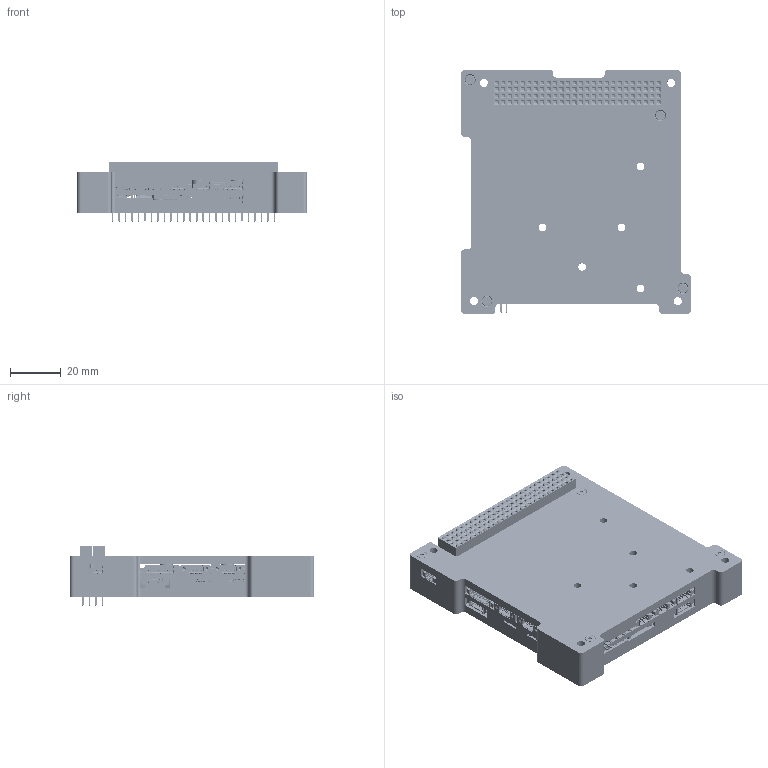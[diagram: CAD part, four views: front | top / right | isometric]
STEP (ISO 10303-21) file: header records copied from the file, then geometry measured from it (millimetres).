
FILE_DESCRIPTION (( 'STEP AP214' ), '1' );
FILE_NAME ('OBC-Cube-Polar-Release_v11.STEP', '2025-06-28T18:42:03', ( '' ), ( '' ), 'SwSTEP 2.0', 'SolidWorks 2024', '' );
FILE_SCHEMA (( 'AUTOMOTIVE_DESIGN' ));
Length unit declared in the file: millimetre
Products named in the file (534): FB5_1.step.SLDASM; C179_1.step.SLDASM; Open CASCADE STEP translator 7.5 6.17.1.2.6.step; CF11_1.step.SLDASM; C209_1.step.SLDASM; C155_1.step.SLDASM; D13.step; J2_1.step.SLDASM; Open CASCADE STEP translator 6.8 2.2.1-7_1.step.SLDPRT; C329_1.step.SLDASM; R281_1.step.SLDASM; C320_1.step.SLDASM; C261_1.step.SLDASM; C247_1.step.SLDASM; D9.step; FRAME-RVC0020A_1.step.SLDASM; C516_1.step.SLDASM; U11_1.step.SLDASM; Open CASCADE STEP translator 7.5 2.1-1_1.step.SLDPRT; Open CASCADE STEP translator 7.5 6.17.1.2.21.step; U7_1.step.SLDASM; C161_1.step.SLDASM; C184_1.step.SLDASM; Open CASCADE STEP translator 6.8 3.2.1_1.step.SLDPRT; powerpak_so_8_1.step.SLDPRT; C262_1.step.SLDASM; C186_1.step.SLDASM; C183_1.step.SLDASM; Open CASCADE STEP translator 7.5 6.17.1.2.8.step; C480_1.step.SLDASM; C273_1.step.SLDASM; J12_1.step.SLDASM; U15_1.step.SLDASM; Y5_1.step.SLDASM; J15_1.step.SLDASM; R117_1.step.SLDASM; R168_1.step.SLDASM; C341_1.step.SLDASM; J20_1.step.SLDASM; C201_1.step.SLDASM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
Assembly tree (1785 placements, depth 6):
  OBC-Cube-Polar-Release_v11
    Polar-Cube-OBC-Min.step
      Board_1.step.SLDASM
        Open CASCADE STEP translator 7.5 6.1.1.step
      J16_1.step.SLDASM
        m22-5330205_1.step.SLDASM
          Open CASCADE STEP translator 7.5 6.2.1.1.step
          Open CASCADE STEP translator 7.5 6.2.1.2.step
          Open CASCADE STEP translator 7.5 6.2.1.3.step
      D1_1.step.SLDASM
        led0603_ORNG_1.step.SLDPRT
      U18_1.step.SLDASM
        SOIC-8_1.step.SLDASM
          SOIC-8_Body_1_1.step.SLDPRT
          SOIC-8_Pins_1_1.step.SLDPRT
      C249_1.step.SLDASM
        cap_0201_1.step.SLDPRT
      C248_1.step.SLDASM
        cap_0201_1.step.SLDPRT
      U46_1.step.SLDASM
        8608009680_1.step.SLDPRT
      U12_1.step.SLDASM
        8608009680_1.step.SLDPRT
      Y9_1.step.SLDASM
        ABM8AIG-26.000MHZ-12-2Z-T3_1.step.SLDPRT
      Y8_1.step.SLDASM
        ECS-.327-12.5-34B-C-TR_1.step.SLDPRT
      Y7_1.step.SLDASM
        AK3LPHEF1-100.0000T_1.step.SLDPRT
      Y6_1.step.SLDASM
        ASEMB-125.000MHZ-XY-T_1.step.SLDPRT
      Y5_1.step.SLDASM
        ASEMB-125.000MHZ-XY-T_1.step.SLDPRT
      U45_1.step.SLDASM
        7344568992_1.step.SLDASM
          Extruded_1.step.SLDPRT
      U44_1.step.SLDASM
        9101751408_1.step.SLDPRT
      U43_1.step.SLDASM
        7090566192_1.step.SLDASM
          Body_1.step.SLDASM
            Open CASCADE STEP translator 6.8 3.2.1_1.step.SLDPRT
          Pin_Shape_1.step.SLDASM  x32
            Open CASCADE STEP translator 6.8 3.4.1_1.step.SLDPRT
          Open CASCADE STEP translator 6.8 3.1_1.step.SLDPRT
          Thermal_Shape_1.step.SLDPRT
      U42_1.step.SLDASM
        RVC0020A_1.step.SLDASM
          FRAME-RVC0020A_1.step.SLDASM
            Open CASCADE STEP translator 7.5 6.17.1.2.1.step
            Open CASCADE STEP translator 7.5 6.17.1.2.2.step
            Open CASCADE STEP translator 7.5 6.17.1.2.3.step
            Open CASCADE STEP translator 7.5 6.17.1.2.4.step
            Open CASCADE STEP translator 7.5 6.17.1.2.5.step
            Open CASCADE STEP translator 7.5 6.17.1.2.6.step
            Open CASCADE STEP translator 7.5 6.17.1.2.7.step
            Open CASCADE STEP translator 7.5 6.17.1.2.8.step
            Open CASCADE STEP translator 7.5 6.17.1.2.9.step
            Open CASCADE STEP translator 7.5 6.17.1.2.10.step
            Open CASCADE STEP translator 7.5 6.17.1.2.11.step
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Bounding box: 90.33 x 95.93 x 23.24 mm (x, y, z)
Volume: 62926.4 mm3; surface area: 86673 mm2
Topology: 2717 solids, 2736 shells, 39298 faces, 98736 edges, 60460 vertices
Faces by surface type: plane 24846, cylinder 9065, sphere 3726, bspline 1209, cone 276, torus 176
Full cylindrical faces by diameter (mm): 0.119 x1, 0.13 x1, 0.15 x1, 0.196 x1, 0.2 x8, 0.263 x2, 0.3 x1, 0.4 x18, 0.408 x1, 0.512 x1, 0.563 x1, 0.625 x2, 0.663 x1, 0.675 x1, 0.91 x104, 1.012 x2, 1.016 x2, 1.25 x3, 1.478 x16, 1.6 x4, 1.8 x10, 1.933 x28, 2 x10, 3 x15, 3.18 x12, 5 x10
Entity records: 610098 total; most frequent: CARTESIAN_POINT 155828, ORIENTED_EDGE 88549, DIRECTION 87890, EDGE_CURVE 44279, LINE 34170, VECTOR 34170, VERTEX_POINT 28967, AXIS2_PLACEMENT_3D 26860
